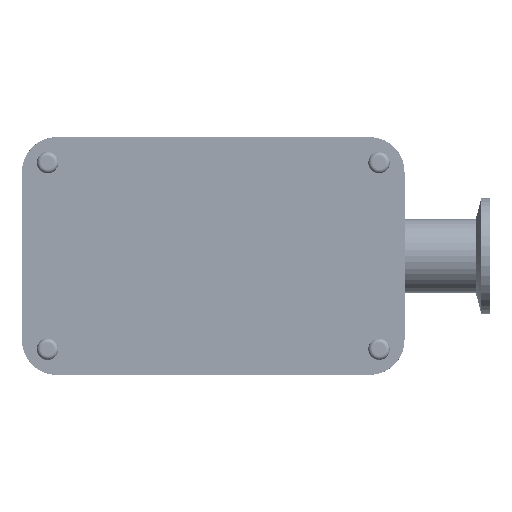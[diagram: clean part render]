
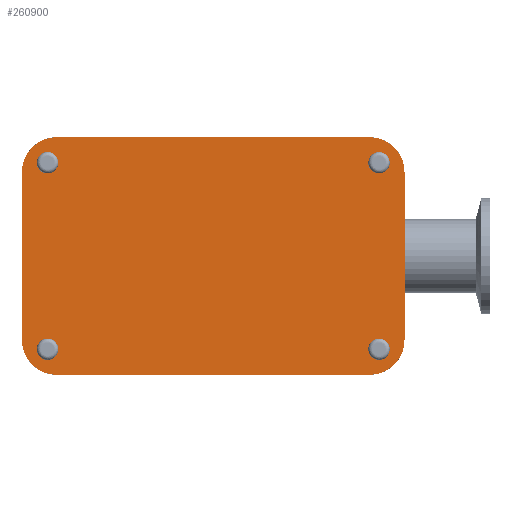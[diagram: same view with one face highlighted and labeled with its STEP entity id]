
A CAD part, left-side view. The second image highlights one B-rep face of the part: STEP entity #260900.
In plain terms, the highlighted planar face has unit normal (-1, 0, 0).
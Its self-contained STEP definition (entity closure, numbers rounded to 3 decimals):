
#155739=CARTESIAN_POINT('',(-148.,-38.,-29.));
#155740=DIRECTION('',(-1.,0.,0.));
#155741=DIRECTION('',(0.,1.,0.));
#155742=AXIS2_PLACEMENT_3D('',#155739,#155740,#155741);
#155744=DIRECTION('',(0.,0.,-1.));
#155745=VECTOR('',#155744,58.);
#155746=CARTESIAN_POINT('',(-148.,-26.,29.));
#155747=LINE('',#155746,#155745);
#155748=CARTESIAN_POINT('',(-148.,-38.,29.));
#155749=DIRECTION('',(-1.,0.,0.));
#155750=DIRECTION('',(0.,0.,1.));
#155751=AXIS2_PLACEMENT_3D('',#155748,#155749,#155750);
#155753=DIRECTION('',(0.,1.,0.));
#155754=VECTOR('',#155753,108.);
#155755=CARTESIAN_POINT('',(-148.,-146.,41.));
#155756=LINE('',#155755,#155754);
#155757=CARTESIAN_POINT('',(-148.,-146.,29.));
#155758=DIRECTION('',(-1.,0.,0.));
#155759=DIRECTION('',(0.,-1.,0.));
#155760=AXIS2_PLACEMENT_3D('',#155757,#155758,#155759);
#155762=DIRECTION('',(0.,0.,1.));
#155763=VECTOR('',#155762,58.);
#155764=CARTESIAN_POINT('',(-148.,-158.,-29.));
#155765=LINE('',#155764,#155763);
#155766=CARTESIAN_POINT('',(-148.,-146.,-29.));
#155767=DIRECTION('',(-1.,0.,0.));
#155768=DIRECTION('',(0.,0.,-1.));
#155769=AXIS2_PLACEMENT_3D('',#155766,#155767,#155768);
#155771=DIRECTION('',(0.,-1.,0.));
#155772=VECTOR('',#155771,108.);
#155773=CARTESIAN_POINT('',(-148.,-38.,-41.));
#155774=LINE('',#155773,#155772);
#155775=CARTESIAN_POINT('',(-148.,-34.8,-32.2));
#155776=DIRECTION('',(-1.,0.,0.));
#155777=DIRECTION('',(0.,0.01,1.));
#155778=AXIS2_PLACEMENT_3D('',#155775,#155776,#155777);
#155780=CARTESIAN_POINT('',(-148.,-34.8,-32.2));
#155781=DIRECTION('',(-1.,0.,0.));
#155782=DIRECTION('',(0.,-0.01,-1.));
#155783=AXIS2_PLACEMENT_3D('',#155780,#155781,#155782);
#155785=CARTESIAN_POINT('',(-148.,-34.8,32.2));
#155786=DIRECTION('',(-1.,0.,0.));
#155787=DIRECTION('',(0.,0.01,1.));
#155788=AXIS2_PLACEMENT_3D('',#155785,#155786,#155787);
#155790=CARTESIAN_POINT('',(-148.,-34.8,32.2));
#155791=DIRECTION('',(-1.,0.,0.));
#155792=DIRECTION('',(0.,-0.01,-1.));
#155793=AXIS2_PLACEMENT_3D('',#155790,#155791,#155792);
#155795=CARTESIAN_POINT('',(-148.,-149.2,-32.2));
#155796=DIRECTION('',(-1.,0.,0.));
#155797=DIRECTION('',(0.,0.01,1.));
#155798=AXIS2_PLACEMENT_3D('',#155795,#155796,#155797);
#155800=CARTESIAN_POINT('',(-148.,-149.2,-32.2));
#155801=DIRECTION('',(-1.,0.,0.));
#155802=DIRECTION('',(0.,-0.01,-1.));
#155803=AXIS2_PLACEMENT_3D('',#155800,#155801,#155802);
#155805=CARTESIAN_POINT('',(-148.,-149.2,32.2));
#155806=DIRECTION('',(-1.,0.,0.));
#155807=DIRECTION('',(0.,0.01,1.));
#155808=AXIS2_PLACEMENT_3D('',#155805,#155806,#155807);
#155810=CARTESIAN_POINT('',(-148.,-149.2,32.2));
#155811=DIRECTION('',(-1.,0.,0.));
#155812=DIRECTION('',(0.,-0.01,-1.));
#155813=AXIS2_PLACEMENT_3D('',#155810,#155811,#155812);
#222167=CARTESIAN_POINT('',(-148.,-26.,-29.));
#222168=CARTESIAN_POINT('',(-148.,-38.,-41.));
#222169=VERTEX_POINT('',#222167);
#222170=VERTEX_POINT('',#222168);
#222171=CARTESIAN_POINT('',(-148.,-38.,41.));
#222172=CARTESIAN_POINT('',(-148.,-26.,29.));
#222173=VERTEX_POINT('',#222171);
#222174=VERTEX_POINT('',#222172);
#222175=CARTESIAN_POINT('',(-148.,-158.,29.));
#222176=CARTESIAN_POINT('',(-148.,-146.,41.));
#222177=VERTEX_POINT('',#222175);
#222178=VERTEX_POINT('',#222176);
#222179=CARTESIAN_POINT('',(-148.,-146.,-41.));
#222180=CARTESIAN_POINT('',(-148.,-158.,-29.));
#222181=VERTEX_POINT('',#222179);
#222182=VERTEX_POINT('',#222180);
#223652=CARTESIAN_POINT('',(-148.,-34.764,-28.5));
#223653=CARTESIAN_POINT('',(-148.,-34.836,-35.9));
#223654=VERTEX_POINT('',#223652);
#223655=VERTEX_POINT('',#223653);
#224060=CARTESIAN_POINT('',(-148.,-34.764,35.9));
#224061=CARTESIAN_POINT('',(-148.,-34.836,28.5));
#224062=VERTEX_POINT('',#224060);
#224063=VERTEX_POINT('',#224061);
#224460=CARTESIAN_POINT('',(-148.,-149.164,-28.5));
#224461=CARTESIAN_POINT('',(-148.,-149.236,-35.9));
#224462=VERTEX_POINT('',#224460);
#224463=VERTEX_POINT('',#224461);
#224938=CARTESIAN_POINT('',(-148.,-149.164,35.9));
#224939=CARTESIAN_POINT('',(-148.,-149.236,28.5));
#224940=VERTEX_POINT('',#224938);
#224941=VERTEX_POINT('',#224939);
#260858=CARTESIAN_POINT('',(-148.,-92.,0.));
#260859=DIRECTION('',(-1.,0.,0.));
#260860=DIRECTION('',(0.,0.,1.));
#260861=AXIS2_PLACEMENT_3D('',#260858,#260859,#260860);
#260862=PLANE('',#260861);
#260864=ORIENTED_EDGE('',*,*,#260863,.F.);
#260866=ORIENTED_EDGE('',*,*,#260865,.F.);
#260868=ORIENTED_EDGE('',*,*,#260867,.F.);
#260869=ORIENTED_EDGE('',*,*,#245182,.F.);
#260870=ORIENTED_EDGE('',*,*,#245572,.F.);
#260871=ORIENTED_EDGE('',*,*,#245520,.F.);
#260872=ORIENTED_EDGE('',*,*,#245425,.F.);
#260873=ORIENTED_EDGE('',*,*,#245410,.F.);
#260874=EDGE_LOOP('',(#260864,#260866,#260868,#260869,#260870,#260871,#260872,
#260873));
#260875=FACE_OUTER_BOUND('',#260874,.F.);
#260877=ORIENTED_EDGE('',*,*,#260876,.T.);
#260879=ORIENTED_EDGE('',*,*,#260878,.T.);
#260880=EDGE_LOOP('',(#260877,#260879));
#260881=FACE_BOUND('',#260880,.F.);
#260883=ORIENTED_EDGE('',*,*,#260882,.T.);
#260885=ORIENTED_EDGE('',*,*,#260884,.T.);
#260886=EDGE_LOOP('',(#260883,#260885));
#260887=FACE_BOUND('',#260886,.F.);
#260889=ORIENTED_EDGE('',*,*,#260888,.T.);
#260891=ORIENTED_EDGE('',*,*,#260890,.T.);
#260892=EDGE_LOOP('',(#260889,#260891));
#260893=FACE_BOUND('',#260892,.F.);
#260895=ORIENTED_EDGE('',*,*,#260894,.T.);
#260897=ORIENTED_EDGE('',*,*,#260896,.T.);
#260898=EDGE_LOOP('',(#260895,#260897));
#260899=FACE_BOUND('',#260898,.F.);
#260900=ADVANCED_FACE('',(#260875,#260881,#260887,#260893,#260899),#260862,.T.);
#155743=CIRCLE('',#155742,12.);
#155752=CIRCLE('',#155751,12.);
#155761=CIRCLE('',#155760,12.);
#155770=CIRCLE('',#155769,12.);
#155779=CIRCLE('',#155778,3.7);
#155784=CIRCLE('',#155783,3.7);
#155789=CIRCLE('',#155788,3.7);
#155794=CIRCLE('',#155793,3.7);
#155799=CIRCLE('',#155798,3.7);
#155804=CIRCLE('',#155803,3.7);
#155809=CIRCLE('',#155808,3.7);
#155814=CIRCLE('',#155813,3.7);
#245182=EDGE_CURVE('',#222178,#222173,#155756,.T.);
#245410=EDGE_CURVE('',#222170,#222181,#155774,.T.);
#245425=EDGE_CURVE('',#222181,#222182,#155770,.T.);
#245520=EDGE_CURVE('',#222182,#222177,#155765,.T.);
#245572=EDGE_CURVE('',#222177,#222178,#155761,.T.);
#260863=EDGE_CURVE('',#222169,#222170,#155743,.T.);
#260865=EDGE_CURVE('',#222174,#222169,#155747,.T.);
#260867=EDGE_CURVE('',#222173,#222174,#155752,.T.);
#260876=EDGE_CURVE('',#223654,#223655,#155779,.T.);
#260878=EDGE_CURVE('',#223655,#223654,#155784,.T.);
#260882=EDGE_CURVE('',#224062,#224063,#155789,.T.);
#260884=EDGE_CURVE('',#224063,#224062,#155794,.T.);
#260888=EDGE_CURVE('',#224462,#224463,#155799,.T.);
#260890=EDGE_CURVE('',#224463,#224462,#155804,.T.);
#260894=EDGE_CURVE('',#224940,#224941,#155809,.T.);
#260896=EDGE_CURVE('',#224941,#224940,#155814,.T.);
